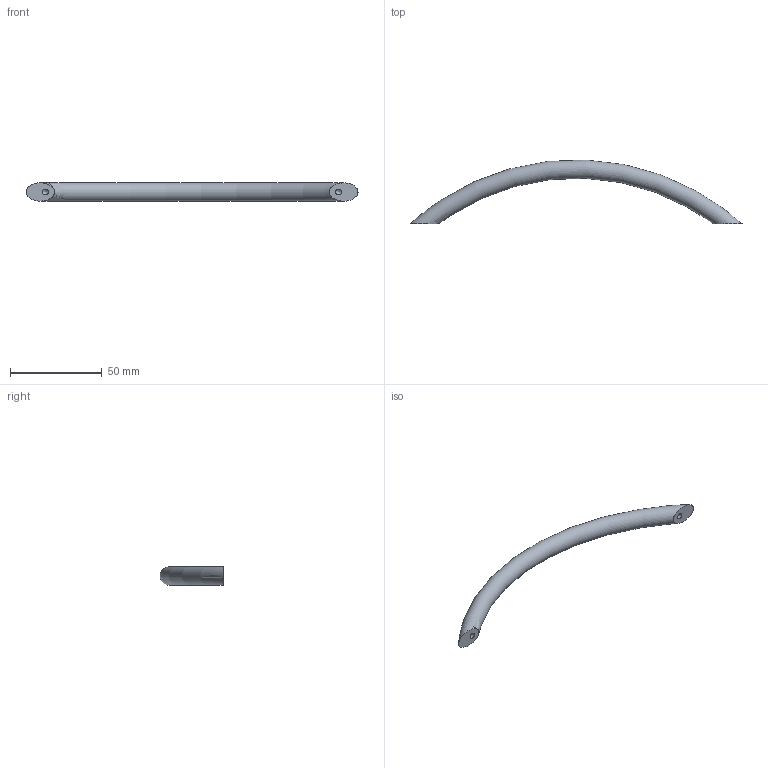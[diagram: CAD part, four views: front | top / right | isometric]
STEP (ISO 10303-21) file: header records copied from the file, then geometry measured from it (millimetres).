
FILE_DESCRIPTION( ( 'STEP AP203' ), '1' );
FILE_NAME( 'C:/Temp/Ganter_Step_05_03_2020/data/1_2/gn424_1/Arch handle GN 424.1-10-160-CR.stp', '2020-03-05T10:12:26', ( 'License CC BY-ND 4.0' ), ( 'CADENAS' ), ' ', 'PARTsolutions', ' ' );
FILE_SCHEMA( ( 'CONFIG_CONTROL_DESIGN' ) );
Length unit declared in the file: millimetre
Products named in the file (1): _Arch handle GN 424.1-10-160-CR
Bounding box: 180.99 x 34.88 x 9.99 mm (x, y, z)
Volume: 14027.5 mm3; surface area: 6004 mm2
Topology: 1 solids, 1 shells, 7 faces, 14 edges, 9 vertices
Faces by surface type: cone 2, cylinder 2, plane 2, torus 1
Full cylindrical faces by diameter (mm): 3.242 x2
Entity records: 332 total; most frequent: CARTESIAN_POINT 174, DIRECTION 24, AXIS2_PLACEMENT_3D 12, EDGE_LOOP 12, ORIENTED_EDGE 12, FACE_OUTER_BOUND 10, VERTEX_POINT 8, ADVANCED_FACE 7
